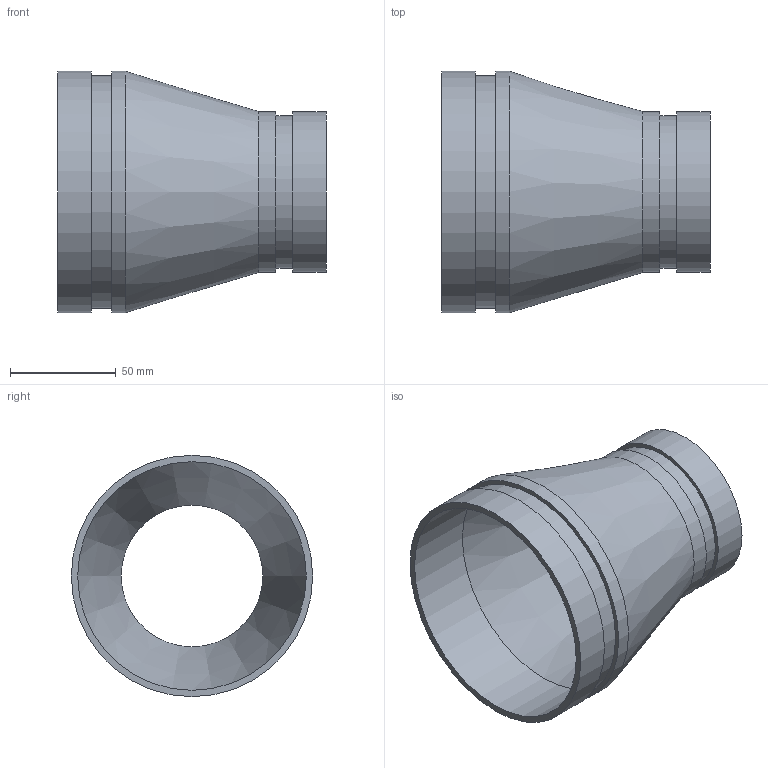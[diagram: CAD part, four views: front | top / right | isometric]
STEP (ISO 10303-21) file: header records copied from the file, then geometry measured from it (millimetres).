
FILE_DESCRIPTION(/* description */ ('VIC REDUCER CONCENTRIC No 450-SS','CAx-IF Rec.Pracs.---Representation and Presentation of Product Manufacturing Information (PMI)---4.0---2014-10-13'),/* implementation_level */ '2;1');
FILE_NAME(/* name */ 'C:\Users\kkamble\AppData\Roaming\Autodesk\ApplicationPlugins\Back Up\Victaulic_SS-OGS_Reducer Concentric_Sched 10S_No 450 SS (OGS)\Victaulic_SS-OGS_Reducer Concentric_Sched 10S_No 450 SS (OGS)_04.0x02.5 (76.1) (100x65).stp',/* time_stamp */ '2020-09-08T12:33:06+05:00',/* author */ ('CORINNE GRAY'),/* organization */ ('Victaulic'),/* preprocessor_version */ 'ST-DEVELOPER v17.2',/* originating_system */ 'Autodesk Inventor 2019',/* authorisation */ '');
FILE_SCHEMA (('AP242_MANAGED_MODEL_BASED_3D_ENGINEERING_MIM_LF { 1 0 10303 442 1 1 4 }'));
Length unit declared in the file: inch
Products named in the file (1): 450 SS-04.0x02.5 (76.1)
Bounding box: 127 x 114.3 x 114.3 mm (x, y, z)
Volume: 124241.1 mm3; surface area: 78984.4 mm2
Topology: 1 solids, 1 shells, 16 faces, 42 edges, 32 vertices
Faces by surface type: cylinder 8, plane 6, cone 2
Full cylindrical faces by diameter (mm): 67.056 x1, 72.263 x1, 76.2 x2, 108.204 x1, 110.084 x1, 114.3 x2
Entity records: 686 total; most frequent: DIRECTION 134, CARTESIAN_POINT 108, ORIENTED_EDGE 84, AXIS2_PLACEMENT_3D 62, EDGE_CURVE 42, CIRCLE 32, VERTEX_POINT 32, EDGE_LOOP 22
